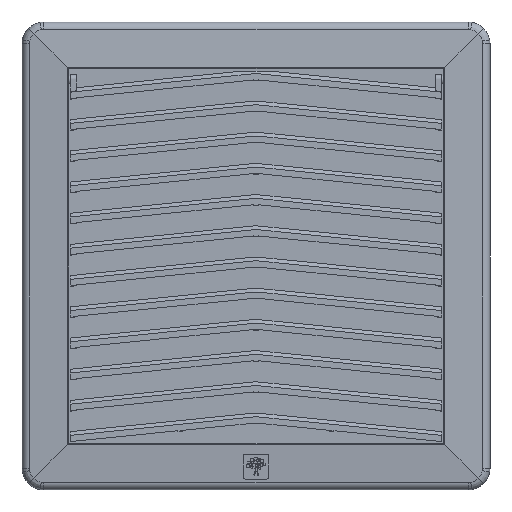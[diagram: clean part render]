
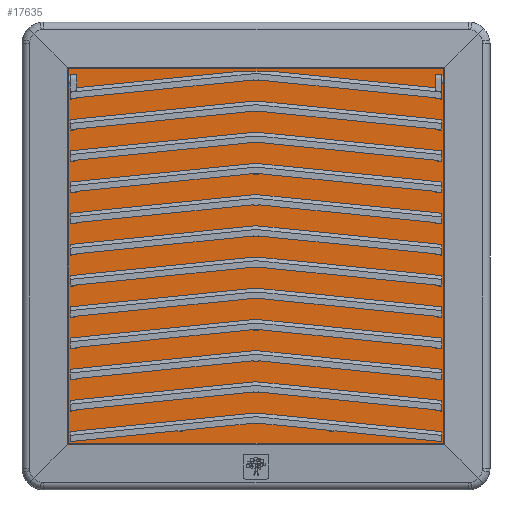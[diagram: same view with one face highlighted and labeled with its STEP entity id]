
A CAD part, top view. The second image highlights one B-rep face of the part: STEP entity #17635.
In plain terms, the highlighted planar face has unit normal (0, 0, 1).
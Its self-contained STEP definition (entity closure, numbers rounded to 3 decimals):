
#90 = ORIENTED_EDGE ( 'NONE', *, *, #1363, .T. ) ;
#278 = CARTESIAN_POINT ( 'NONE',  ( 71.82, -71.817, 29.265 ) ) ;
#281 = ORIENTED_EDGE ( 'NONE', *, *, #7121, .T. ) ;
#1013 = CARTESIAN_POINT ( 'NONE',  ( -60.022, -59.07, 29.265 ) ) ;
#1363 = EDGE_CURVE ( 'NONE', #12416, #1665, #24427, .T. ) ;
#1665 = VERTEX_POINT ( 'NONE', #9649 ) ;
#1671 = VERTEX_POINT ( 'NONE', #21747 ) ;
#2616 = DIRECTION ( 'NONE',  ( 0., 1., 0. ) ) ;
#3568 = DIRECTION ( 'NONE',  ( 0., -1., 0. ) ) ;
#3666 = VECTOR ( 'NONE', #9651, 1000. ) ;
#4602 = CARTESIAN_POINT ( 'NONE',  ( 59.07, 60.022, 29.265 ) ) ;
#5068 = CARTESIAN_POINT ( 'NONE',  ( 60.022, -59.07, 29.265 ) ) ;
#6700 = VECTOR ( 'NONE', #2616, 1000. ) ;
#7121 = EDGE_CURVE ( 'NONE', #1671, #20223, #19009, .T. ) ;
#9605 = DIRECTION ( 'NONE',  ( 1., 0., 0. ) ) ;
#9649 = CARTESIAN_POINT ( 'NONE',  ( -60.022, -60.022, 29.265 ) ) ;
#9651 = DIRECTION ( 'NONE',  ( 1., 0., 0. ) ) ;
#10526 = CARTESIAN_POINT ( 'NONE',  ( -60.022, 60.022, 29.265 ) ) ;
#11091 = EDGE_CURVE ( 'NONE', #20223, #12416, #14249, .T. ) ;
#11890 = PLANE ( 'NONE',  #30005 ) ;
#12025 = VECTOR ( 'NONE', #13946, 1000. ) ;
#12416 = VERTEX_POINT ( 'NONE', #10526 ) ;
#13946 = DIRECTION ( 'NONE',  ( -1., 0., 0. ) ) ;
#14249 = LINE ( 'NONE', #4602, #12025 ) ;
#14480 = DIRECTION ( 'NONE',  ( 0., 0., 1. ) ) ;
#15243 = LINE ( 'NONE', #17403, #3666 ) ;
#17403 = CARTESIAN_POINT ( 'NONE',  ( 59.07, -60.022, 29.265 ) ) ;
#17616 = CARTESIAN_POINT ( 'NONE',  ( 60.022, 60.022, 29.265 ) ) ;
#17635 = ADVANCED_FACE ( 'NONE', ( #28162 ), #11890, .T. ) ;
#19009 = LINE ( 'NONE', #5068, #6700 ) ;
#20087 = VECTOR ( 'NONE', #3568, 1000. ) ;
#20223 = VERTEX_POINT ( 'NONE', #17616 ) ;
#21747 = CARTESIAN_POINT ( 'NONE',  ( 60.022, -60.022, 29.265 ) ) ;
#22718 = EDGE_CURVE ( 'NONE', #1665, #1671, #15243, .T. ) ;
#24427 = LINE ( 'NONE', #1013, #20087 ) ;
#26015 = ORIENTED_EDGE ( 'NONE', *, *, #11091, .T. ) ;
#28162 = FACE_OUTER_BOUND ( 'NONE', #28831, .T. ) ;
#28831 = EDGE_LOOP ( 'NONE', ( #281, #26015, #90, #30169 ) ) ;
#30005 = AXIS2_PLACEMENT_3D ( 'NONE', #278, #14480, #9605 ) ;
#30169 = ORIENTED_EDGE ( 'NONE', *, *, #22718, .T. ) ;
